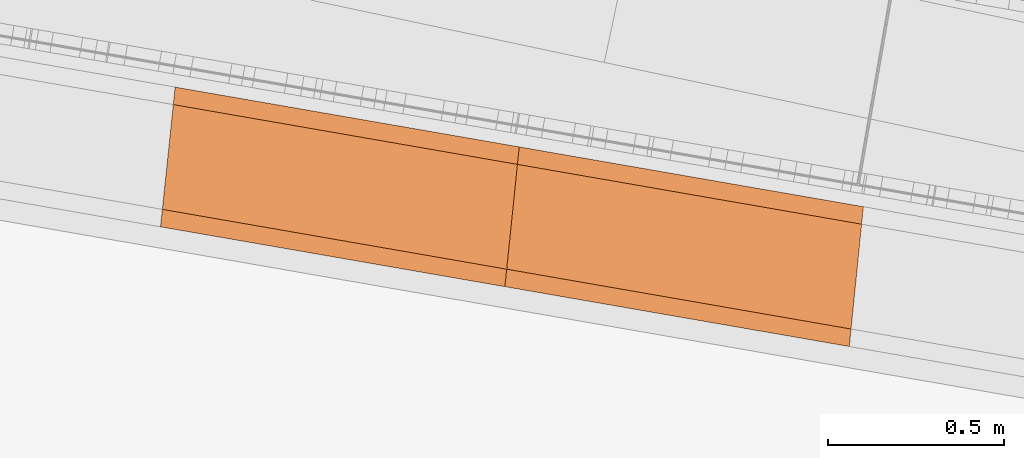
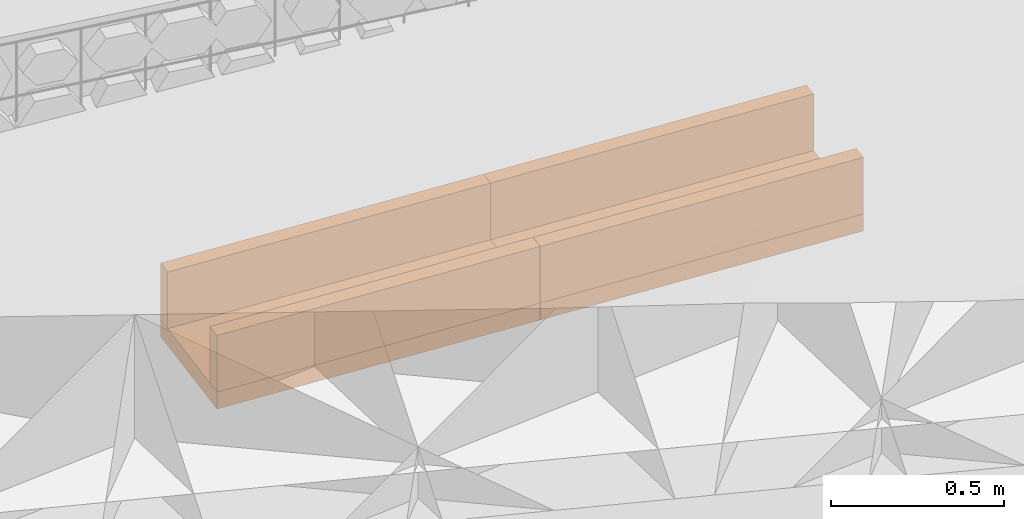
# Not in any storey, part 41 of 46: 6 proxies.
"""IFC4 model written with IfcOpenShell, lengths in metres."""

from ifc_helpers import new_model, si_unit, direction, frame, origin_with_axes, place, context, subcontext, project, spatial, polygons, material, element, save


model = new_model("IFC4")

# Units and contexts
model_context = context("Model", 3, precision=1e-05, world=origin_with_axes(), true_north=direction((0.0, 1.0)))
body_context = subcontext(model_context, "Body", "Model", "MODEL_VIEW")
ifc_project = project(units=[si_unit("VOLUMEUNIT", "CUBIC_METRE"), si_unit("LENGTHUNIT", "METRE"), si_unit("AREAUNIT", "SQUARE_METRE")], contexts=[model_context])

# Site
site_placement = place(None, origin_with_axes())
site = spatial("IfcSite", under=ifc_project, at=site_placement, Name="Lares · Rua das Mercês · artigo 4771")

# Proxies
ifc_material = material(Name="Caleiras · betão", Category="concrete")
proxy_1_placement = place(site_placement, frame((0.0, 0.0, 0.0), z_axis=(0.0, 0.0, 1.0), x_axis=(1.0, -1.03767253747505e-17, 0.0)))
element("IfcBuildingElementProxy", 1, at=proxy_1_placement, inside=site, material=ifc_material, Name="Acesso · canal lateral", ObjectType="Acesso · canal lateral", PredefinedType="USERDEFINED", context=body_context, shape_type="Tessellation", body=[
    polygons([(75.3751172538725, 6.9972366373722, 15.2725349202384), (75.4165372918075, 7.39508633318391, 15.2725349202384), (76.3966624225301, 7.22478058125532, 15.3469929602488), (76.3552423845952, 6.82693088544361, 15.3469929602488), (75.3751172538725, 6.9972366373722, 15.3325349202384), (75.4165372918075, 7.39508633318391, 15.3325349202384), (76.3966624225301, 7.22478058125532, 15.4069929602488), (76.3552423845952, 6.82693088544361, 15.4069929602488)], [[[4, 3, 2, 1]], [[5, 6, 7, 8]], [[1, 2, 6, 5]], [[2, 3, 7, 6]], [[3, 4, 8, 7]], [[4, 1, 5, 8]]]),
])
proxy_2_placement = place(site_placement, frame((0.0, 0.0, 0.0), z_axis=(0.0, 0.0, 1.0), x_axis=(1.0, -1.03767253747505e-17, 0.0)))
element("IfcBuildingElementProxy", 2, at=proxy_2_placement, inside=site, material=ifc_material, Name="Acesso · canal lateral", ObjectType="Acesso · canal lateral", PredefinedType="USERDEFINED", context=body_context, shape_type="Tessellation", body=[
    polygons([(75.3751172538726, 6.9972366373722, 15.3325349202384), (75.3802947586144, 7.04696784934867, 15.3325349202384), (76.360419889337, 6.87666209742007, 15.4069929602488), (76.3552423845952, 6.82693088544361, 15.4069929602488), (75.3751172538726, 6.9972366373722, 15.5325349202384), (75.3802947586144, 7.04696784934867, 15.5325349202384), (76.360419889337, 6.87666209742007, 15.6069929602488), (76.3552423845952, 6.82693088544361, 15.6069929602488)], [[[4, 3, 2, 1]], [[5, 6, 7, 8]], [[1, 2, 6, 5]], [[2, 3, 7, 6]], [[3, 4, 8, 7]], [[4, 1, 5, 8]]]),
])
proxy_3_placement = place(site_placement, frame((0.0, 0.0, 0.0), z_axis=(0.0, 0.0, 1.0), x_axis=(1.0, -1.03767253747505e-17, 0.0)))
element("IfcBuildingElementProxy", 3, at=proxy_3_placement, inside=site, material=ifc_material, Name="Acesso · canal lateral", ObjectType="Acesso · canal lateral", PredefinedType="USERDEFINED", context=body_context, shape_type="Tessellation", body=[
    polygons([(75.4113597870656, 7.34535512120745, 15.3325349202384), (75.4165372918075, 7.39508633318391, 15.3325349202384), (76.3966624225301, 7.22478058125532, 15.4069929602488), (76.3914849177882, 7.17504936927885, 15.4069929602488), (75.4113597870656, 7.34535512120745, 15.5325349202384), (75.4165372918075, 7.39508633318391, 15.5325349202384), (76.3966624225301, 7.22478058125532, 15.6069929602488), (76.3914849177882, 7.17504936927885, 15.6069929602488)], [[[4, 3, 2, 1]], [[5, 6, 7, 8]], [[1, 2, 6, 5]], [[2, 3, 7, 6]], [[3, 4, 8, 7]], [[4, 1, 5, 8]]]),
])
proxy_4_placement = place(site_placement, frame((0.0, 0.0, 0.0), z_axis=(0.0, 0.0, 1.0), x_axis=(1.0, -1.03767253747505e-17, 0.0)))
element("IfcBuildingElementProxy", 4, at=proxy_4_placement, inside=site, material=ifc_material, Name="Acesso · canal lateral", ObjectType="Acesso · canal lateral", PredefinedType="USERDEFINED", context=body_context, shape_type="Tessellation", body=[
    polygons([(76.3557132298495, 6.82688242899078, 15.3469929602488), (76.3961915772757, 7.22482903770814, 15.3469929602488), (77.3762955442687, 7.05452399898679, 15.4214510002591), (77.3358171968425, 6.65657739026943, 15.4214510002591), (76.3557132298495, 6.82688242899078, 15.4069929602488), (76.3961915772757, 7.22482903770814, 15.4069929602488), (77.3762955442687, 7.05452399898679, 15.4814510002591), (77.3358171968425, 6.65657739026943, 15.4814510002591)], [[[4, 3, 2, 1]], [[5, 6, 7, 8]], [[1, 2, 6, 5]], [[2, 3, 7, 6]], [[3, 4, 8, 7]], [[4, 1, 5, 8]]]),
])
proxy_5_placement = place(site_placement, frame((0.0, 0.0, 0.0), z_axis=(0.0, 0.0, 1.0), x_axis=(1.0, -1.03767253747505e-17, 0.0)))
element("IfcBuildingElementProxy", 5, at=proxy_5_placement, inside=site, material=ifc_material, Name="Acesso · canal lateral", ObjectType="Acesso · canal lateral", PredefinedType="USERDEFINED", context=body_context, shape_type="Tessellation", body=[
    polygons([(76.3557132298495, 6.82688242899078, 15.4069929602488), (76.3607730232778, 6.87662575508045, 15.4069929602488), (77.3408769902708, 6.7063207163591, 15.4814510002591), (77.3358171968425, 6.65657739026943, 15.4814510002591), (76.3557132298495, 6.82688242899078, 15.6069929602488), (76.3607730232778, 6.87662575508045, 15.6069929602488), (77.3408769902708, 6.7063207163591, 15.6814510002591), (77.3358171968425, 6.65657739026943, 15.6814510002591)], [[[4, 3, 2, 1]], [[5, 6, 7, 8]], [[1, 2, 6, 5]], [[2, 3, 7, 6]], [[3, 4, 8, 7]], [[4, 1, 5, 8]]]),
])
proxy_6_placement = place(site_placement, frame((0.0, 0.0, 0.0), z_axis=(0.0, 0.0, 1.0), x_axis=(1.0, -1.03767253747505e-17, 0.0)))
element("IfcBuildingElementProxy", 6, at=proxy_6_placement, inside=site, material=ifc_material, Name="Acesso · canal lateral", ObjectType="Acesso · canal lateral", PredefinedType="USERDEFINED", context=body_context, shape_type="Tessellation", body=[
    polygons([(76.3911317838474, 7.17508571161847, 15.4069929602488), (76.3961915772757, 7.22482903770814, 15.4069929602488), (77.3762955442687, 7.05452399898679, 15.4814510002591), (77.3712357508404, 7.00478067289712, 15.4814510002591), (76.3911317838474, 7.17508571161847, 15.6069929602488), (76.3961915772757, 7.22482903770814, 15.6069929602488), (77.3762955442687, 7.05452399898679, 15.6814510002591), (77.3712357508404, 7.00478067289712, 15.6814510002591)], [[[4, 3, 2, 1]], [[5, 6, 7, 8]], [[1, 2, 6, 5]], [[2, 3, 7, 6]], [[3, 4, 8, 7]], [[4, 1, 5, 8]]]),
])

save(model, "model.ifc")
